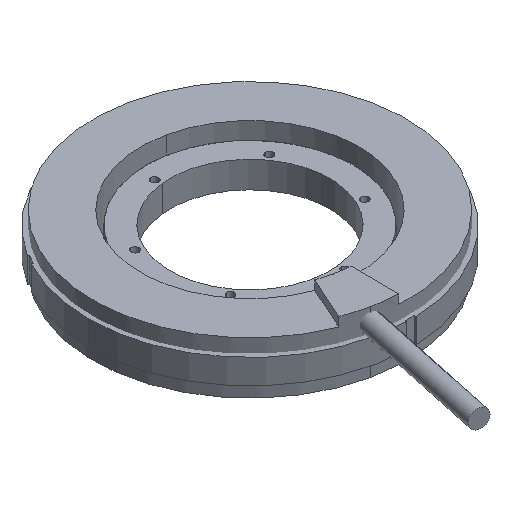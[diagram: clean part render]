
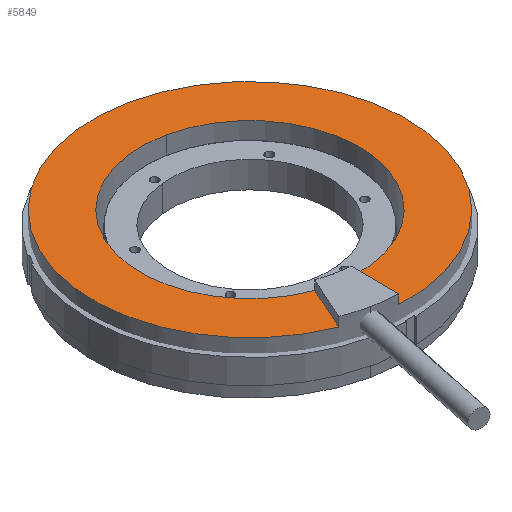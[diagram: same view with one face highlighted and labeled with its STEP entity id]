
A CAD part, isometric view. The second image highlights one B-rep face of the part: STEP entity #5849.
In plain terms, the highlighted planar face has unit normal (0, 0, 1).
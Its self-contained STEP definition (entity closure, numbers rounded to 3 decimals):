
#52 = CARTESIAN_POINT ( 'NONE',  ( 43.402, 151.654, 137.975 ) ) ;
#87 = VECTOR ( 'NONE', #918, 1000. ) ;
#335 = VERTEX_POINT ( 'NONE', #4558 ) ;
#603 = CIRCLE ( 'NONE', #7589, 51. ) ;
#611 = CARTESIAN_POINT ( 'NONE',  ( 40.14, 136.45, 137.975 ) ) ;
#616 = ORIENTED_EDGE ( 'NONE', *, *, #6683, .T. ) ;
#737 = VERTEX_POINT ( 'NONE', #7300 ) ;
#747 = DIRECTION ( 'NONE',  ( -0.21, -0.978, 0. ) ) ;
#916 = VERTEX_POINT ( 'NONE', #4384 ) ;
#918 = DIRECTION ( 'NONE',  ( 0.002, 1., 0. ) ) ;
#938 = ORIENTED_EDGE ( 'NONE', *, *, #3015, .F. ) ;
#1307 = EDGE_CURVE ( 'NONE', #6057, #916, #7710, .T. ) ;
#1498 = EDGE_CURVE ( 'NONE', #916, #737, #7044, .T. ) ;
#1899 = ORIENTED_EDGE ( 'NONE', *, *, #5649, .T. ) ;
#2087 = ORIENTED_EDGE ( 'NONE', *, *, #1307, .F. ) ;
#2398 = AXIS2_PLACEMENT_3D ( 'NONE', #2466, #4970, #6121 ) ;
#2466 = CARTESIAN_POINT ( 'NONE',  ( 32.704, 101.788, 137.975 ) ) ;
#2520 = CARTESIAN_POINT ( 'NONE',  ( 32.704, 101.788, 137.975 ) ) ;
#2609 = CARTESIAN_POINT ( 'NONE',  ( 32.704, 101.788, 137.975 ) ) ;
#2758 = VERTEX_POINT ( 'NONE', #5783 ) ;
#2797 = DIRECTION ( 'NONE',  ( -0.408, -0.913, 0. ) ) ;
#2863 = VECTOR ( 'NONE', #2797, 1000. ) ;
#2896 = AXIS2_PLACEMENT_3D ( 'NONE', #2609, #5629, #5668 ) ;
#3015 = EDGE_CURVE ( 'NONE', #2758, #6057, #3104, .T. ) ;
#3104 = CIRCLE ( 'NONE', #5257, 35.45 ) ;
#3238 = DIRECTION ( 'NONE',  ( 0., 0., 1. ) ) ;
#3862 = DIRECTION ( 'NONE',  ( 0., 0., 1. ) ) ;
#3939 = CARTESIAN_POINT ( 'NONE',  ( 32.704, 101.788, 137.975 ) ) ;
#4384 = CARTESIAN_POINT ( 'NONE',  ( 20.454, 68.522, 137.975 ) ) ;
#4529 = PLANE ( 'NONE',  #5071 ) ;
#4558 = CARTESIAN_POINT ( 'NONE',  ( 30.202, 50.85, 137.975 ) ) ;
#4858 = ORIENTED_EDGE ( 'NONE', *, *, #1498, .F. ) ;
#4970 = DIRECTION ( 'NONE',  ( 0., 0., 1. ) ) ;
#4982 = EDGE_CURVE ( 'NONE', #335, #2758, #5867, .T. ) ;
#5071 = AXIS2_PLACEMENT_3D ( 'NONE', #3939, #3862, #6938 ) ;
#5161 = EDGE_LOOP ( 'NONE', ( #5435, #616, #1899, #4858, #2087, #938 ) ) ;
#5257 = AXIS2_PLACEMENT_3D ( 'NONE', #2520, #6206, #747 ) ;
#5435 = ORIENTED_EDGE ( 'NONE', *, *, #4982, .F. ) ;
#5629 = DIRECTION ( 'NONE',  ( 0., 0., 1. ) ) ;
#5649 = EDGE_CURVE ( 'NONE', #7331, #737, #6447, .T. ) ;
#5662 = DIRECTION ( 'NONE',  ( -0.21, -0.978, 0. ) ) ;
#5668 = DIRECTION ( 'NONE',  ( -0.21, -0.978, 0. ) ) ;
#5678 = FACE_OUTER_BOUND ( 'NONE', #5161, .T. ) ;
#5783 = CARTESIAN_POINT ( 'NONE',  ( 30.231, 66.425, 137.975 ) ) ;
#5849 = ADVANCED_FACE ( 'NONE', ( #5678 ), #4529, .T. ) ;
#5867 = LINE ( 'NONE', #7055, #87 ) ;
#6057 = VERTEX_POINT ( 'NONE', #611 ) ;
#6121 = DIRECTION ( 'NONE',  ( -0.21, -0.978, 0. ) ) ;
#6206 = DIRECTION ( 'NONE',  ( 0., 0., 1. ) ) ;
#6447 = CIRCLE ( 'NONE', #2398, 51. ) ;
#6683 = EDGE_CURVE ( 'NONE', #335, #7331, #603, .T. ) ;
#6938 = DIRECTION ( 'NONE',  ( 0.978, -0.21, 0. ) ) ;
#7002 = CARTESIAN_POINT ( 'NONE',  ( 20.454, 68.522, 137.975 ) ) ;
#7044 = LINE ( 'NONE', #7002, #2863 ) ;
#7055 = CARTESIAN_POINT ( 'NONE',  ( 30.231, 66.425, 137.975 ) ) ;
#7300 = CARTESIAN_POINT ( 'NONE',  ( 14.092, 54.306, 137.975 ) ) ;
#7331 = VERTEX_POINT ( 'NONE', #52 ) ;
#7589 = AXIS2_PLACEMENT_3D ( 'NONE', #7597, #3238, #5662 ) ;
#7597 = CARTESIAN_POINT ( 'NONE',  ( 32.704, 101.788, 137.975 ) ) ;
#7710 = CIRCLE ( 'NONE', #2896, 35.45 ) ;
